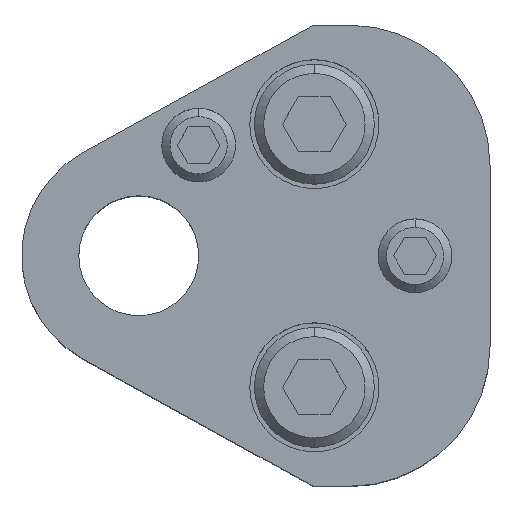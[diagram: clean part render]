
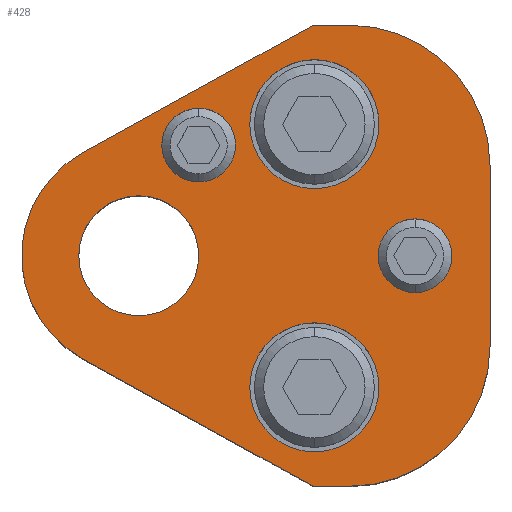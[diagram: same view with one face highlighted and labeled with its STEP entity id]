
A CAD part, top view. The second image highlights one B-rep face of the part: STEP entity #428.
In plain terms, the highlighted planar face has unit normal (0, 0, 1).
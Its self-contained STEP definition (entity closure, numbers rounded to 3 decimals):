
#198=FACE_BOUND('',#745,.T.);
#199=FACE_BOUND('',#746,.T.);
#200=FACE_BOUND('',#747,.T.);
#201=FACE_BOUND('',#748,.T.);
#202=FACE_BOUND('',#749,.T.);
#203=FACE_BOUND('',#750,.T.);
#276=CIRCLE('',#2330,15.2);
#278=CIRCLE('',#2334,15.2);
#281=CIRCLE('',#2340,12.7);
#282=CIRCLE('',#2342,4.);
#284=CIRCLE('',#2345,4.);
#286=CIRCLE('',#2348,4.);
#288=CIRCLE('',#2351,4.);
#298=CIRCLE('',#2366,7.);
#299=CIRCLE('',#2367,7.);
#300=CIRCLE('',#2368,7.);
#301=CIRCLE('',#2369,7.);
#302=CIRCLE('',#2370,6.5);
#303=CIRCLE('',#2371,6.5);
#428=ADVANCED_FACE('',(#198,#199,#200,#201,#202,#203),#522,.T.);
#522=PLANE('',#2372);
#745=EDGE_LOOP('',(#1129,#1130,#1131,#1132,#1133,#1134,#1135,#1136));
#746=EDGE_LOOP('',(#1137,#1138));
#747=EDGE_LOOP('',(#1139,#1140));
#748=EDGE_LOOP('',(#1141,#1142));
#749=EDGE_LOOP('',(#1143,#1144));
#750=EDGE_LOOP('',(#1145,#1146));
#1129=ORIENTED_EDGE('',*,*,#1724,.T.);
#1130=ORIENTED_EDGE('',*,*,#1728,.T.);
#1131=ORIENTED_EDGE('',*,*,#1731,.T.);
#1132=ORIENTED_EDGE('',*,*,#1734,.T.);
#1133=ORIENTED_EDGE('',*,*,#1737,.T.);
#1134=ORIENTED_EDGE('',*,*,#1740,.T.);
#1135=ORIENTED_EDGE('',*,*,#1743,.T.);
#1136=ORIENTED_EDGE('',*,*,#1746,.T.);
#1137=ORIENTED_EDGE('',*,*,#1771,.F.);
#1138=ORIENTED_EDGE('',*,*,#1772,.F.);
#1139=ORIENTED_EDGE('',*,*,#1773,.F.);
#1140=ORIENTED_EDGE('',*,*,#1774,.F.);
#1141=ORIENTED_EDGE('',*,*,#1757,.F.);
#1142=ORIENTED_EDGE('',*,*,#1753,.F.);
#1143=ORIENTED_EDGE('',*,*,#1751,.F.);
#1144=ORIENTED_EDGE('',*,*,#1747,.F.);
#1145=ORIENTED_EDGE('',*,*,#1775,.T.);
#1146=ORIENTED_EDGE('',*,*,#1776,.T.);
#1492=VERTEX_POINT('',#3476);
#1493=VERTEX_POINT('',#3478);
#1496=VERTEX_POINT('',#3485);
#1498=VERTEX_POINT('',#3491);
#1500=VERTEX_POINT('',#3497);
#1502=VERTEX_POINT('',#3503);
#1504=VERTEX_POINT('',#3509);
#1506=VERTEX_POINT('',#3515);
#1507=VERTEX_POINT('',#3523);
#1508=VERTEX_POINT('',#3524);
#1511=VERTEX_POINT('',#3535);
#1512=VERTEX_POINT('',#3536);
#1523=VERTEX_POINT('',#3571);
#1524=VERTEX_POINT('',#3572);
#1525=VERTEX_POINT('',#3575);
#1526=VERTEX_POINT('',#3576);
#1527=VERTEX_POINT('',#3579);
#1528=VERTEX_POINT('',#3580);
#1724=EDGE_CURVE('',#1493,#1492,#1968,.T.);
#1728=EDGE_CURVE('',#1492,#1496,#1972,.T.);
#1731=EDGE_CURVE('',#1496,#1498,#276,.T.);
#1734=EDGE_CURVE('',#1498,#1500,#1976,.T.);
#1737=EDGE_CURVE('',#1500,#1502,#278,.T.);
#1740=EDGE_CURVE('',#1502,#1504,#1980,.T.);
#1743=EDGE_CURVE('',#1504,#1506,#1983,.T.);
#1746=EDGE_CURVE('',#1506,#1493,#281,.T.);
#1747=EDGE_CURVE('',#1507,#1508,#282,.T.);
#1751=EDGE_CURVE('',#1508,#1507,#284,.T.);
#1753=EDGE_CURVE('',#1511,#1512,#286,.T.);
#1757=EDGE_CURVE('',#1512,#1511,#288,.T.);
#1771=EDGE_CURVE('',#1523,#1524,#298,.T.);
#1772=EDGE_CURVE('',#1524,#1523,#299,.T.);
#1773=EDGE_CURVE('',#1525,#1526,#300,.T.);
#1774=EDGE_CURVE('',#1526,#1525,#301,.T.);
#1775=EDGE_CURVE('',#1527,#1528,#302,.T.);
#1776=EDGE_CURVE('',#1528,#1527,#303,.T.);
#1968=LINE('',#3477,#2132);
#1972=LINE('',#3486,#2136);
#1976=LINE('',#3498,#2140);
#1980=LINE('',#3510,#2144);
#1983=LINE('',#3516,#2147);
#2132=VECTOR('',#2758,1.);
#2136=VECTOR('',#2764,1.);
#2140=VECTOR('',#2776,1.);
#2144=VECTOR('',#2788,1.);
#2147=VECTOR('',#2793,1.);
#2330=AXIS2_PLACEMENT_3D('',#3492,#2769,#2770);
#2334=AXIS2_PLACEMENT_3D('',#3504,#2781,#2782);
#2340=AXIS2_PLACEMENT_3D('',#3520,#2799,#2800);
#2342=AXIS2_PLACEMENT_3D('',#3522,#2803,#2804);
#2345=AXIS2_PLACEMENT_3D('',#3531,#2811,#2812);
#2348=AXIS2_PLACEMENT_3D('',#3534,#2817,#2818);
#2351=AXIS2_PLACEMENT_3D('',#3543,#2825,#2826);
#2366=AXIS2_PLACEMENT_3D('',#3570,#2859,#2860);
#2367=AXIS2_PLACEMENT_3D('',#3573,#2861,#2862);
#2368=AXIS2_PLACEMENT_3D('',#3574,#2863,#2864);
#2369=AXIS2_PLACEMENT_3D('',#3577,#2865,#2866);
#2370=AXIS2_PLACEMENT_3D('',#3578,#2867,#2868);
#2371=AXIS2_PLACEMENT_3D('',#3581,#2869,#2870);
#2372=AXIS2_PLACEMENT_3D('',#3582,#2871,#2872);
#2758=DIRECTION('',(0.875,-0.485,0.));
#2764=DIRECTION('',(1.,0.,0.));
#2769=DIRECTION('',(0.,0.,1.));
#2770=DIRECTION('',(-0.707,0.707,0.));
#2776=DIRECTION('',(0.,1.,0.));
#2781=DIRECTION('',(0.,0.,1.));
#2782=DIRECTION('',(-0.707,-0.707,0.));
#2788=DIRECTION('',(-1.,0.,0.));
#2793=DIRECTION('',(-0.875,-0.485,0.));
#2799=DIRECTION('',(0.,0.,1.));
#2800=DIRECTION('',(1.,0.,0.));
#2803=DIRECTION('',(0.,0.,1.));
#2804=DIRECTION('',(-1.,0.,0.));
#2811=DIRECTION('',(0.,0.,1.));
#2812=DIRECTION('',(1.,0.,0.));
#2817=DIRECTION('',(0.,0.,1.));
#2818=DIRECTION('',(-1.,0.,0.));
#2825=DIRECTION('',(0.,0.,1.));
#2826=DIRECTION('',(1.,0.,0.));
#2859=DIRECTION('',(0.,0.,1.));
#2860=DIRECTION('',(1.,0.,0.));
#2861=DIRECTION('',(0.,0.,1.));
#2862=DIRECTION('',(-1.,0.,0.));
#2863=DIRECTION('',(0.,0.,1.));
#2864=DIRECTION('',(1.,0.,0.));
#2865=DIRECTION('',(0.,0.,1.));
#2866=DIRECTION('',(-1.,0.,0.));
#2867=DIRECTION('',(0.,0.,-1.));
#2868=DIRECTION('',(-1.,0.,0.));
#2869=DIRECTION('',(0.,0.,-1.));
#2870=DIRECTION('',(1.,0.,0.));
#2871=DIRECTION('',(0.,0.,1.));
#2872=DIRECTION('',(-0.875,0.485,0.));
#3476=CARTESIAN_POINT('',(18.905,-25.,32.));
#3477=CARTESIAN_POINT('',(18.905,-25.,32.));
#3478=CARTESIAN_POINT('',(-6.157,-11.108,32.));
#3485=CARTESIAN_POINT('',(22.9,-25.,32.));
#3486=CARTESIAN_POINT('',(18.905,-25.,32.));
#3491=CARTESIAN_POINT('',(38.1,-9.8,32.));
#3492=CARTESIAN_POINT('',(22.9,-9.8,32.));
#3497=CARTESIAN_POINT('',(38.1,9.8,32.));
#3498=CARTESIAN_POINT('',(38.1,9.8,32.));
#3503=CARTESIAN_POINT('',(22.9,25.,32.));
#3504=CARTESIAN_POINT('',(22.9,9.8,32.));
#3509=CARTESIAN_POINT('',(18.905,25.,32.));
#3510=CARTESIAN_POINT('',(18.905,25.,32.));
#3515=CARTESIAN_POINT('',(-6.157,11.108,32.));
#3516=CARTESIAN_POINT('',(18.905,25.,32.));
#3520=CARTESIAN_POINT('',(0.,0.,32.));
#3522=CARTESIAN_POINT('',(6.5,12.,32.));
#3523=CARTESIAN_POINT('',(6.5,8.,32.));
#3524=CARTESIAN_POINT('',(6.5,16.,32.));
#3531=CARTESIAN_POINT('',(6.5,12.,32.));
#3534=CARTESIAN_POINT('',(29.97,0.,32.));
#3535=CARTESIAN_POINT('',(29.97,-4.,32.));
#3536=CARTESIAN_POINT('',(29.97,4.,32.));
#3543=CARTESIAN_POINT('',(29.97,0.,32.));
#3570=CARTESIAN_POINT('',(19.05,14.27,32.));
#3571=CARTESIAN_POINT('',(19.05,21.27,32.));
#3572=CARTESIAN_POINT('',(19.05,7.27,32.));
#3573=CARTESIAN_POINT('',(19.05,14.27,32.));
#3574=CARTESIAN_POINT('',(19.05,-14.27,32.));
#3575=CARTESIAN_POINT('',(19.05,-7.27,32.));
#3576=CARTESIAN_POINT('',(19.05,-21.27,32.));
#3577=CARTESIAN_POINT('',(19.05,-14.27,32.));
#3578=CARTESIAN_POINT('',(0.,0.,32.));
#3579=CARTESIAN_POINT('',(0.,6.5,32.));
#3580=CARTESIAN_POINT('',(0.,-6.5,32.));
#3581=CARTESIAN_POINT('',(0.,0.,32.));
#3582=CARTESIAN_POINT('',(-6.157,-11.108,32.));
